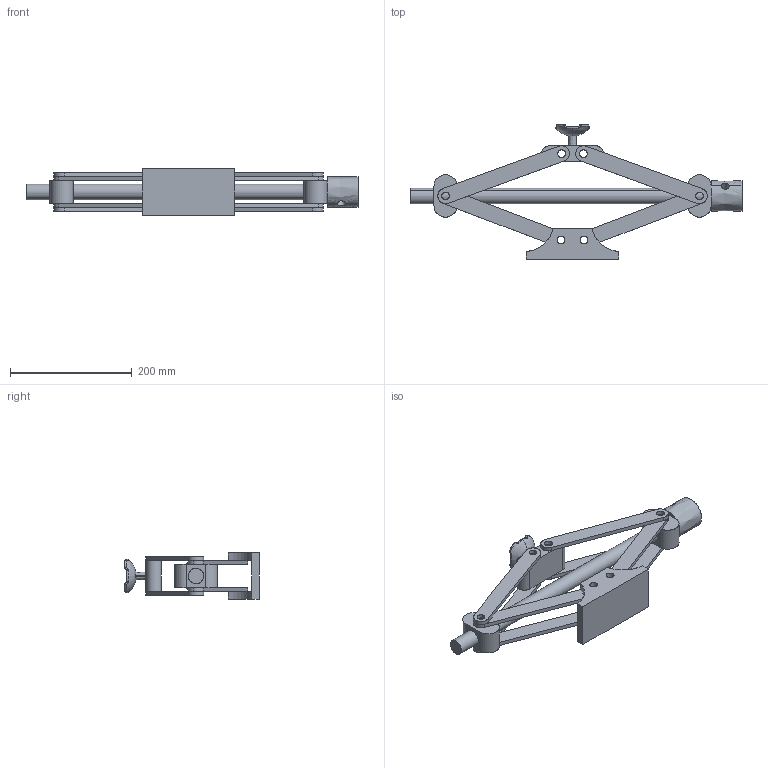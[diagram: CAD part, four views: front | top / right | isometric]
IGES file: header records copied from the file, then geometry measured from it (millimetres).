
Start section: SolidWorks IGES file using analytic representation for surfaces
Global section: file name: D:\Senousy\CAD_Models\Car_Jack\car_crane.IGS; native system: SolidWorks 2012; preprocessor: SolidWorks 2012; author: mssenous; date: 130102.160357; units: millimetre
Bounding box: 546.1 x 221.53 x 76.2 mm (x, y, z)
Surface area: 268389.7 mm2 (no closed solid volume)
Topology: 0 solids, 0 shells, 206 faces, 4397 edges, 4393 vertices
Faces by surface type: revolution 116, bspline 90
